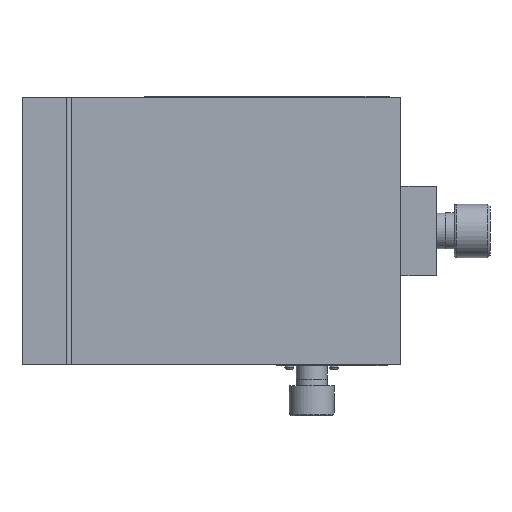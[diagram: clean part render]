
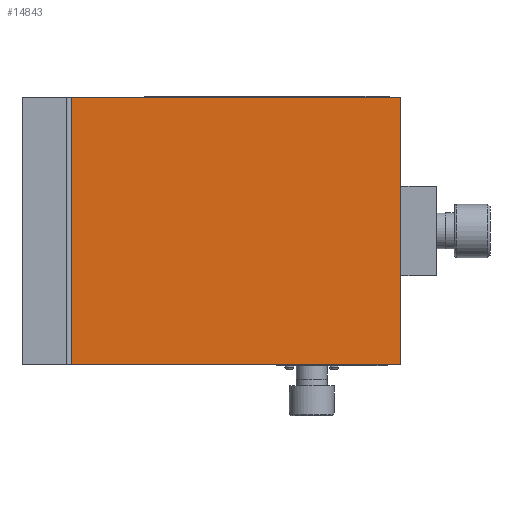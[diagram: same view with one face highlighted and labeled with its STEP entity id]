
A CAD part, front view. The second image highlights one B-rep face of the part: STEP entity #14843.
In plain terms, the highlighted planar face has unit normal (0, -1, 0).
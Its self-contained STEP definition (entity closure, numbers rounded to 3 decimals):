
#676 = DIRECTION ( 'NONE',  ( 0., 0., -1. ) ) ;
#677 = VECTOR ( 'NONE', #676, 1000. ) ;
#678 = CARTESIAN_POINT ( 'NONE',  ( -44., -18.5, -30. ) ) ;
#679 = LINE ( 'NONE', #678, #677 ) ;
#680 = CARTESIAN_POINT ( 'NONE',  ( -44., -18.5, 30. ) ) ;
#681 = DIRECTION ( 'NONE',  ( 1., 0., 0. ) ) ;
#682 = VECTOR ( 'NONE', #681, 1000. ) ;
#683 = CARTESIAN_POINT ( 'NONE',  ( -45., -18.5, 30. ) ) ;
#684 = LINE ( 'NONE', #683, #682 ) ;
#716 = CARTESIAN_POINT ( 'NONE',  ( 30., -18.5, -30. ) ) ;
#717 = DIRECTION ( 'NONE',  ( 0., 0., -1. ) ) ;
#718 = VECTOR ( 'NONE', #717, 1000. ) ;
#719 = CARTESIAN_POINT ( 'NONE',  ( 30., -18.5, 117.321 ) ) ;
#720 = LINE ( 'NONE', #719, #718 ) ;
#721 = CARTESIAN_POINT ( 'NONE',  ( 30., -18.5, 30. ) ) ;
#795 = DIRECTION ( 'NONE',  ( 0., 0., 1. ) ) ;
#796 = DIRECTION ( 'NONE',  ( 0., 1., 0. ) ) ;
#797 = CARTESIAN_POINT ( 'NONE',  ( -45., -18.5, 117.321 ) ) ;
#798 = AXIS2_PLACEMENT_3D ( 'NONE', #797, #796, #795 ) ;
#799 = PLANE ( 'NONE',  #798 ) ;
#800 = FACE_OUTER_BOUND ( 'NONE', #14844, .T. ) ;
#851 = DIRECTION ( 'NONE',  ( -1., 0., 0. ) ) ;
#852 = VECTOR ( 'NONE', #851, 1000. ) ;
#853 = CARTESIAN_POINT ( 'NONE',  ( -45., -18.5, -30. ) ) ;
#854 = LINE ( 'NONE', #853, #852 ) ;
#855 = CARTESIAN_POINT ( 'NONE',  ( -44., -18.5, -30. ) ) ;
#14806 = ORIENTED_EDGE ( 'NONE', *, *, #14825, .F. ) ;
#14823 = VERTEX_POINT ( 'NONE', #721 ) ;
#14825 = EDGE_CURVE ( 'NONE', #14823, #14826, #720, .T. ) ;
#14826 = VERTEX_POINT ( 'NONE', #716 ) ;
#14843 = ADVANCED_FACE ( 'NONE', ( #800 ), #799, .F. ) ;
#14844 = EDGE_LOOP ( 'NONE', ( #14845, #14848, #14851, #14806 ) ) ;
#14845 = ORIENTED_EDGE ( 'NONE', *, *, #14846, .F. ) ;
#14846 = EDGE_CURVE ( 'NONE', #14847, #14823, #684, .T. ) ;
#14847 = VERTEX_POINT ( 'NONE', #680 ) ;
#14848 = ORIENTED_EDGE ( 'NONE', *, *, #14849, .T. ) ;
#14849 = EDGE_CURVE ( 'NONE', #14847, #14850, #679, .T. ) ;
#14850 = VERTEX_POINT ( 'NONE', #855 ) ;
#14851 = ORIENTED_EDGE ( 'NONE', *, *, #14852, .F. ) ;
#14852 = EDGE_CURVE ( 'NONE', #14826, #14850, #854, .T. ) ;
